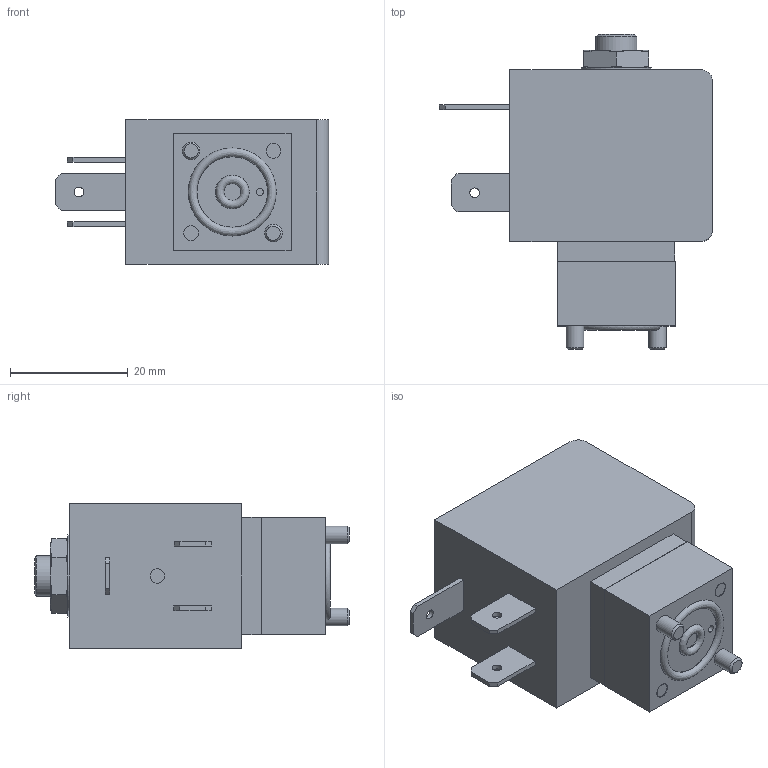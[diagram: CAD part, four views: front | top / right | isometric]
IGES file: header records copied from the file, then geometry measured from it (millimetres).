
Start section: Data from Parasolid IGES Translator 26.0.171, Copyright(c) 2006 Siemens PLM Software. All Rights Reserved.
Global section: file name: 7012-00393085Hubankerventil_3_2_Wege_direktwirkend.igs; native system: By Siemens PLM Incorporated; preprocessor: XPlus GENERIC/IGES 26.0.171; author: Noname; organization: Noname; date: 20250518.142010; units: millimetre
Bounding box: 46.5 x 53.6 x 24.6 mm (x, y, z)
Surface area: 7201.8 mm2 (no closed solid volume)
Topology: 0 solids, 0 shells, 118 faces, 576 edges, 556 vertices
Faces by surface type: extrusion 78, revolution 40
